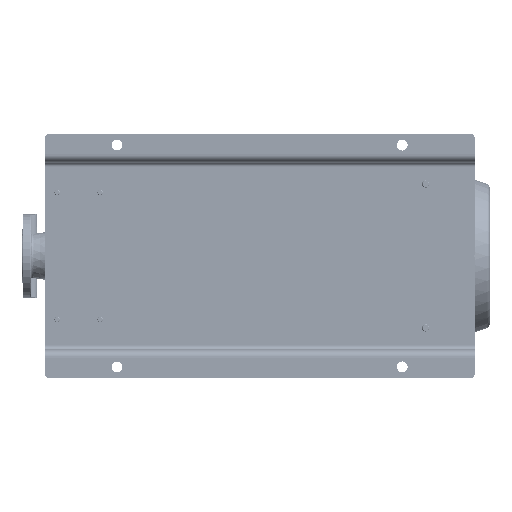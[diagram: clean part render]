
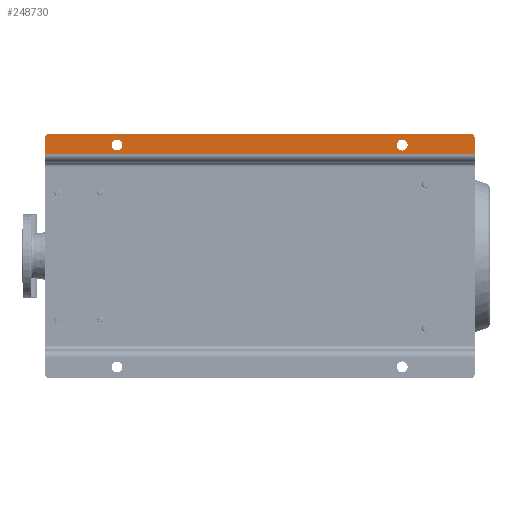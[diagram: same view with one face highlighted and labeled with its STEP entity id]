
A CAD part, front view. The second image highlights one B-rep face of the part: STEP entity #248730.
In plain terms, the highlighted planar face has unit normal (0, -1, 0).
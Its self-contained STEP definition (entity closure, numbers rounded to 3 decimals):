
#5128 = LINE ( 'NONE', #115001, #284737 ) ;
#5488 = VECTOR ( 'NONE', #105831, 1000. ) ;
#15081 = VERTEX_POINT ( 'NONE', #85680 ) ;
#15323 = ORIENTED_EDGE ( 'NONE', *, *, #212728, .T. ) ;
#16223 = VERTEX_POINT ( 'NONE', #191884 ) ;
#17134 = ORIENTED_EDGE ( 'NONE', *, *, #74583, .F. ) ;
#24401 = CARTESIAN_POINT ( 'NONE',  ( 515., 0., -790. ) ) ;
#27567 = PLANE ( 'NONE',  #262833 ) ;
#32318 = EDGE_CURVE ( 'NONE', #202954, #16223, #160704, .T. ) ;
#34327 = EDGE_LOOP ( 'NONE', ( #90558, #142631 ) ) ;
#34335 = DIRECTION ( 'NONE',  ( 0., 0., -1. ) ) ;
#37763 = CIRCLE ( 'NONE', #77633, 12. ) ;
#41555 = CARTESIAN_POINT ( 'NONE',  ( 495., 0., -950. ) ) ;
#45408 = ORIENTED_EDGE ( 'NONE', *, *, #147231, .T. ) ;
#54640 = CARTESIAN_POINT ( 'NONE',  ( 530., 0., -940. ) ) ;
#55559 = DIRECTION ( 'NONE',  ( 0., 0., -1. ) ) ;
#56031 = CARTESIAN_POINT ( 'NONE',  ( 515., 0., -160. ) ) ;
#58194 = EDGE_CURVE ( 'NONE', #279215, #104601, #100011, .T. ) ;
#61793 = DIRECTION ( 'NONE',  ( 0., 0., -1. ) ) ;
#63829 = AXIS2_PLACEMENT_3D ( 'NONE', #24401, #100835, #55559 ) ;
#64171 = AXIS2_PLACEMENT_3D ( 'NONE', #56031, #152895, #271720 ) ;
#68943 = DIRECTION ( 'NONE',  ( 0., 1., 0. ) ) ;
#72141 = CARTESIAN_POINT ( 'NONE',  ( 515., 0., -148. ) ) ;
#74583 = EDGE_CURVE ( 'NONE', #184955, #16223, #295105, .T. ) ;
#77633 = AXIS2_PLACEMENT_3D ( 'NONE', #221985, #159324, #254630 ) ;
#81208 = CARTESIAN_POINT ( 'NONE',  ( 530., 0., -10. ) ) ;
#85680 = CARTESIAN_POINT ( 'NONE',  ( 515., 0., -778. ) ) ;
#90558 = ORIENTED_EDGE ( 'NONE', *, *, #58194, .T. ) ;
#90740 = VERTEX_POINT ( 'NONE', #122201 ) ;
#90952 = VECTOR ( 'NONE', #61793, 1000. ) ;
#96273 = EDGE_CURVE ( 'NONE', #90740, #202954, #173980, .T. ) ;
#96354 = CARTESIAN_POINT ( 'NONE',  ( 477., 0., -950. ) ) ;
#99977 = EDGE_LOOP ( 'NONE', ( #17134, #284187, #45408, #304524, #309331, #191801 ) ) ;
#100011 = CIRCLE ( 'NONE', #274767, 12. ) ;
#100835 = DIRECTION ( 'NONE',  ( 0., 1., 0. ) ) ;
#101636 = CARTESIAN_POINT ( 'NONE',  ( 530., 0., -950. ) ) ;
#104091 = CARTESIAN_POINT ( 'NONE',  ( 495., 0., 0. ) ) ;
#104601 = VERTEX_POINT ( 'NONE', #255932 ) ;
#105831 = DIRECTION ( 'NONE',  ( 1., 0., 0. ) ) ;
#115001 = CARTESIAN_POINT ( 'NONE',  ( 477., 0., -950. ) ) ;
#122201 = CARTESIAN_POINT ( 'NONE',  ( 540., 0., -940. ) ) ;
#122375 = CARTESIAN_POINT ( 'NONE',  ( 540., 0., -950. ) ) ;
#123434 = DIRECTION ( 'NONE',  ( 0., -1., 0. ) ) ;
#125165 = AXIS2_PLACEMENT_3D ( 'NONE', #54640, #123434, #143808 ) ;
#142631 = ORIENTED_EDGE ( 'NONE', *, *, #205202, .T. ) ;
#143808 = DIRECTION ( 'NONE',  ( 0., 0., -1. ) ) ;
#146912 = DIRECTION ( 'NONE',  ( 0., -1., 0. ) ) ;
#147231 = EDGE_CURVE ( 'NONE', #180136, #278420, #5128, .T. ) ;
#148918 = DIRECTION ( 'NONE',  ( 0., 0., 1. ) ) ;
#152895 = DIRECTION ( 'NONE',  ( 0., 1., 0. ) ) ;
#159324 = DIRECTION ( 'NONE',  ( 0., 1., 0. ) ) ;
#160704 = CIRCLE ( 'NONE', #275440, 10. ) ;
#161210 = DIRECTION ( 'NONE',  ( 0., 0., -1. ) ) ;
#162766 = CARTESIAN_POINT ( 'NONE',  ( 515., 0., -160. ) ) ;
#164127 = CIRCLE ( 'NONE', #64171, 12. ) ;
#166316 = EDGE_CURVE ( 'NONE', #184955, #180136, #300969, .T. ) ;
#173623 = CIRCLE ( 'NONE', #63829, 12. ) ;
#173980 = LINE ( 'NONE', #122375, #268515 ) ;
#180136 = VERTEX_POINT ( 'NONE', #41555 ) ;
#184955 = VERTEX_POINT ( 'NONE', #104091 ) ;
#188355 = ORIENTED_EDGE ( 'NONE', *, *, #238371, .T. ) ;
#191801 = ORIENTED_EDGE ( 'NONE', *, *, #32318, .T. ) ;
#191884 = CARTESIAN_POINT ( 'NONE',  ( 530., 0., 0. ) ) ;
#193203 = CARTESIAN_POINT ( 'NONE',  ( 540., 0., -10. ) ) ;
#194335 = DIRECTION ( 'NONE',  ( 1., 0., 0. ) ) ;
#202954 = VERTEX_POINT ( 'NONE', #193203 ) ;
#204296 = CARTESIAN_POINT ( 'NONE',  ( 477., 0., 0. ) ) ;
#205202 = EDGE_CURVE ( 'NONE', #104601, #279215, #164127, .T. ) ;
#212728 = EDGE_CURVE ( 'NONE', #15081, #273128, #37763, .T. ) ;
#218265 = DIRECTION ( 'NONE',  ( 0., -1., 0. ) ) ;
#219986 = CIRCLE ( 'NONE', #125165, 10. ) ;
#221985 = CARTESIAN_POINT ( 'NONE',  ( 515., 0., -790. ) ) ;
#238371 = EDGE_CURVE ( 'NONE', #273128, #15081, #173623, .T. ) ;
#248730 = ADVANCED_FACE ( 'NONE', ( #268252, #265136, #263596 ), #27567, .T. ) ;
#254630 = DIRECTION ( 'NONE',  ( 0., 0., -1. ) ) ;
#255932 = CARTESIAN_POINT ( 'NONE',  ( 515., 0., -172. ) ) ;
#261593 = CARTESIAN_POINT ( 'NONE',  ( 515., 0., -802. ) ) ;
#262833 = AXIS2_PLACEMENT_3D ( 'NONE', #96354, #218265, #290262 ) ;
#263596 = FACE_OUTER_BOUND ( 'NONE', #99977, .T. ) ;
#265136 = FACE_BOUND ( 'NONE', #279323, .T. ) ;
#268252 = FACE_BOUND ( 'NONE', #34327, .T. ) ;
#268495 = EDGE_CURVE ( 'NONE', #278420, #90740, #219986, .T. ) ;
#268515 = VECTOR ( 'NONE', #148918, 1000. ) ;
#271720 = DIRECTION ( 'NONE',  ( 0., 0., -1. ) ) ;
#273128 = VERTEX_POINT ( 'NONE', #261593 ) ;
#274767 = AXIS2_PLACEMENT_3D ( 'NONE', #162766, #68943, #161210 ) ;
#275440 = AXIS2_PLACEMENT_3D ( 'NONE', #81208, #146912, #34335 ) ;
#278420 = VERTEX_POINT ( 'NONE', #101636 ) ;
#279215 = VERTEX_POINT ( 'NONE', #72141 ) ;
#279323 = EDGE_LOOP ( 'NONE', ( #15323, #188355 ) ) ;
#284187 = ORIENTED_EDGE ( 'NONE', *, *, #166316, .T. ) ;
#284737 = VECTOR ( 'NONE', #194335, 1000. ) ;
#290262 = DIRECTION ( 'NONE',  ( 0., 0., -1. ) ) ;
#295105 = LINE ( 'NONE', #204296, #5488 ) ;
#297910 = CARTESIAN_POINT ( 'NONE',  ( 495., 0., -950. ) ) ;
#300969 = LINE ( 'NONE', #297910, #90952 ) ;
#304524 = ORIENTED_EDGE ( 'NONE', *, *, #268495, .T. ) ;
#309331 = ORIENTED_EDGE ( 'NONE', *, *, #96273, .T. ) ;
